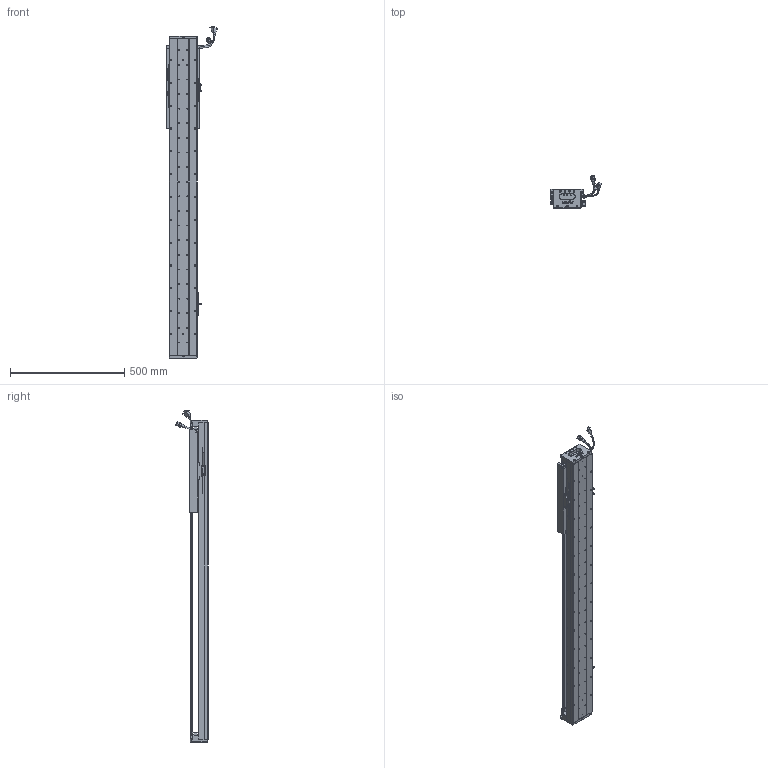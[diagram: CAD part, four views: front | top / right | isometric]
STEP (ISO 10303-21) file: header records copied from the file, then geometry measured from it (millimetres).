
FILE_DESCRIPTION (( 'STEP AP203' ), '1' );
FILE_NAME ('Z5-RY120D-1-L500-B-K.SLDASM_0950.step', '2021-05-17T06:22:06', ( '盈信电脑' ), ( '东莞市道滘镇水果街19号' ), 'SwSTEP 2.0', 'SolidWorks 2016', '' );
FILE_SCHEMA (( 'CONFIG_CONTROL_DESIGN' ));
Length unit declared in the file: millimetre
Products named in the file (37): SCREW-M1.7; COVER-Part-1; Z-RY120D詩湍奻揤裔; SCALE-Part-2; SEAL; SCREW-M1.6-3; SCALE; PSLH080_PSLF2; 140蚥薯蝶輸; SCALE-Part-1; PBU_SHEET; Z-RY120D詩湍狟揤裔; RY100FB-遵嫖萇覜茼え; SCREW-M1.6; Z-120詩湍傷裔啣; SHIELDPLATE; SCREW-M1.6-2; COVER; Z5-RY120D-1-L500-B-K.SLDASM_0950; 120-Z-臏賑輸盄裔(21遴); LABEL; SEAL-Part-1; HOLDER0; 140雄赽晤鎢ん堤盄; Z5-RY120-L500詩湍100mm遵_0950; 榋妏寠巭燃_暯_M2_2; HARNESS-Part-2; HARNESS-Part-1; SCREW-M1.7-1; 080黍杅芛假蚾釱21遴; SCREW-M1.6-1; 672嫖萇羲壽假蚾釱; LABEL-Part-1; Z5-RY120铝滑块（21款）; Z5-RY120-500-倰第菁釱_0950; HARNESS; 覜茼ん672
Assembly tree (43 placements, depth 4):
  Z5-RY120D-1-L500-B-K.SLDASM_0950
    Z5-RY120-500-倰第菁釱_0950
    覜茼ん672  x3
    672嫖萇羲壽假蚾釱  x2
    Z5-RY120铝滑块（21款）
    PSLH080_PSLF2
      SCALE
        SCALE-Part-1
        SCALE-Part-2
      HARNESS
        HARNESS-Part-1
        HARNESS-Part-2
      LABEL
        LABEL-Part-1
      COVER
        COVER-Part-1
      SEAL
        SEAL-Part-1
      榋妏寠巭燃_暯_M2_2
      SHIELDPLATE
      SCREW-M1.7
      SCREW-M1.7-1
      PBU_SHEET
      SCREW-M1.6
      SCREW-M1.6-1
      SCREW-M1.6-2
      SCREW-M1.6-3
      HOLDER0
    080黍杅芛假蚾釱21遴
    120-Z-臏賑輸盄裔(21遴)
    140雄赽晤鎢ん堤盄
    140蚥薯蝶輸  x2
    RY100FB-遵嫖萇覜茼え
    Z-120詩湍傷裔啣  x2
    Z-RY120D詩湍奻揤裔  x2
    Z-RY120D詩湍狟揤裔  x2
    Z5-RY120-L500詩湍100mm遵_0950
Bounding box: 222.88 x 140.94 x 1453.99 mm (x, y, z)
Volume: 4164895.9 mm3; surface area: 1352034.4 mm2
Topology: 38 solids, 38 shells, 3037 faces, 8293 edges, 5238 vertices
Faces by surface type: cylinder 1459, plane 1154, cone 302, torus 69, bspline 53
Entity records: 93736 total; most frequent: CARTESIAN_POINT 25697, ORIENTED_EDGE 13506, DIRECTION 13145, EDGE_CURVE 6753, AXIS2_PLACEMENT_3D 4848, VERTEX_POINT 4358, LINE 3449, VECTOR 3449
